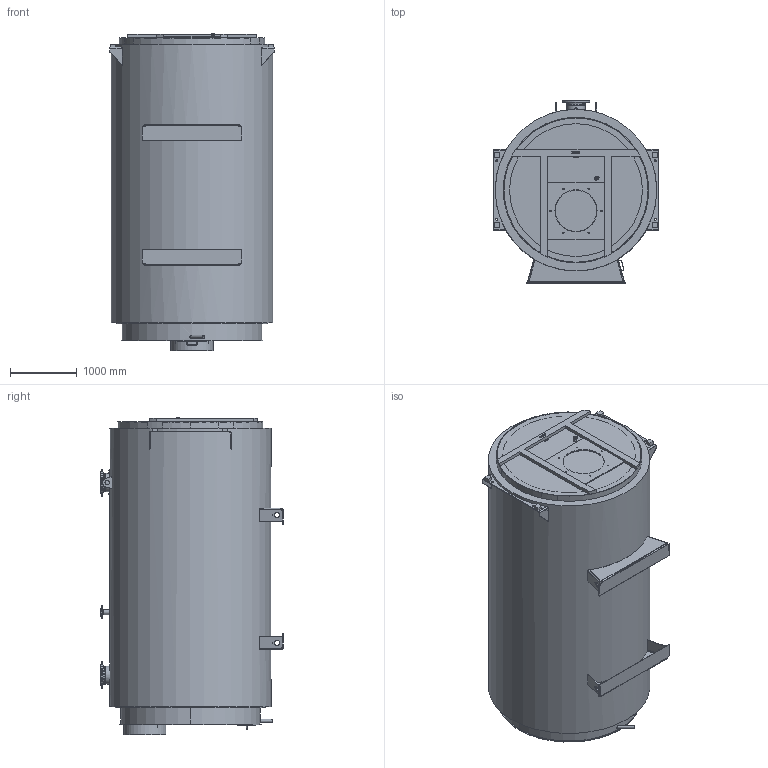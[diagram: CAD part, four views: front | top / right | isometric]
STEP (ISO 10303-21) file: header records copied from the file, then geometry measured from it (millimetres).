
FILE_DESCRIPTION(('TFLEX Exchange Step'),'2;1');
FILE_NAME('M22A02A_7632989_T001.stp', '2024-08-09T15:24:58+03:00',('kort'),('Unknown organisation'),'TFLEX Exchange 2024.2','T-FLEX CAD','Unknown authorisation');
FILE_SCHEMA( ('AP242_MANAGED_MODEL_BASED_3D_ENGINEERING_MIM_LF {1 0 10303 442 1 1 4 }') );
Length unit declared in the file: millimetre
Products named in the file (1): Assembly
Bounding box: 2465 x 2730 x 4759.64 mm (x, y, z)
Volume: 20732515385.8 mm3; surface area: 134776145.6 mm2
Topology: 45 solids, 46 shells, 964 faces, 2493 edges, 1673 vertices
Faces by surface type: plane 477, cylinder 287, bspline 105, cone 66, torus 25, sphere 4
Full cylindrical faces by diameter (mm): 1 x16, 2.2 x4, 3.2 x4, 3.3 x4, 4 x4, 6.5 x4, 10 x9, 11.45 x1, 12 x12, 13 x4, 13.84 x6, 14.63 x6, 18 x4, 22 x6, 26 x24, 32 x4, 35 x3, 40 x2, 41.1 x1, 41.9 x1, 45 x1, 47.8 x1, 48.3 x2, 67.1 x1, 70 x2, 70.3 x1, 76.1 x1, 80 x4, 122 x1, 185 x1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
Entity records: 175231 total; most frequent: CARTESIAN_POINT 150791, ORIENTED_EDGE 4942, DIRECTION 4669, EDGE_CURVE 2471, AXIS2_PLACEMENT_3D 1730, VERTEX_POINT 1673, VECTOR 1209, LINE 1209
